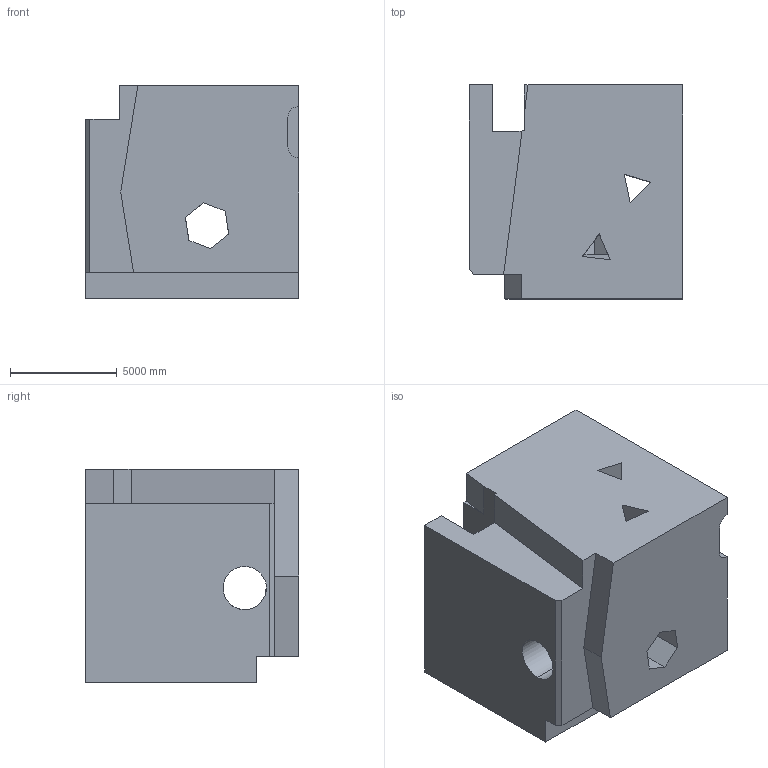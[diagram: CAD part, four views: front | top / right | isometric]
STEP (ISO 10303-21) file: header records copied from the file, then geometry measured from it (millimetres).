
FILE_DESCRIPTION (( 'STEP AP203' ), '1' );
FILE_NAME ('946.STEP', '2022-07-29T14:34:10', ( 'user' ), ( '' ), 'SwSTEP 2.0', 'SolidWorks 2021', '' );
FILE_SCHEMA (( 'CONFIG_CONTROL_DESIGN' ));
Length unit declared in the file: centimetre
Products named in the file (1): 946
Bounding box: 10000 x 10000 x 10000 mm (x, y, z)
Volume: 816086678509.7 mm3; surface area: 777309507.1 mm2
Topology: 1 solids, 1 shells, 42 faces, 129 edges, 86 vertices
Faces by surface type: plane 38, cylinder 4
Entity records: 1518 total; most frequent: CARTESIAN_POINT 294, ORIENTED_EDGE 258, DIRECTION 211, EDGE_CURVE 129, VECTOR 109, LINE 109, VERTEX_POINT 86, AXIS2_PLACEMENT_3D 51
